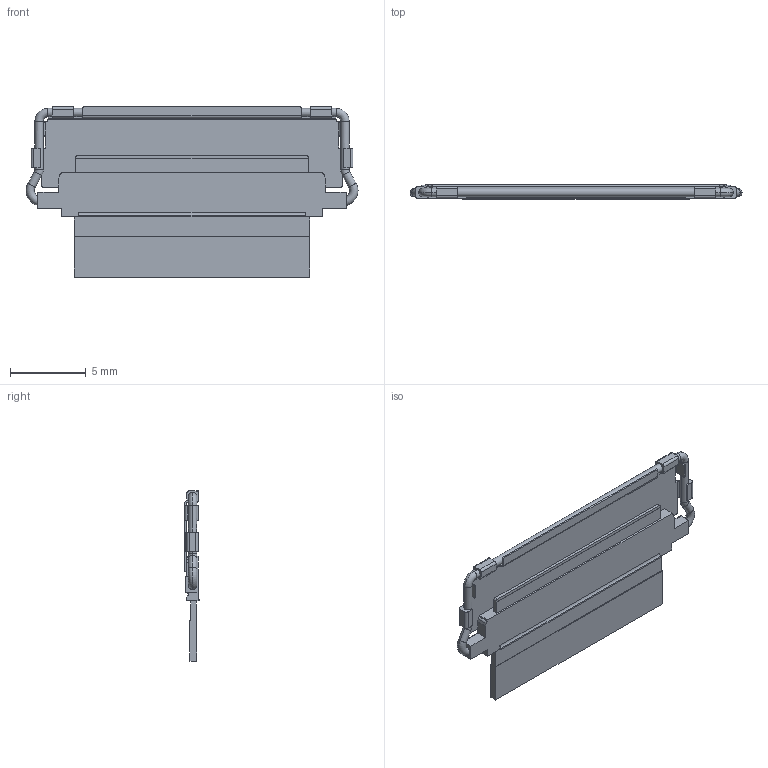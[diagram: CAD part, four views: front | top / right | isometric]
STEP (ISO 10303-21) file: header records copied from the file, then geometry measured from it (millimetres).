
FILE_DESCRIPTION (( 'STEP AP203' ), '1' );
FILE_NAME ('20862-030T-01 FPC ASS''Y STEP R0 ALL.STEP', '2017-11-15T09:47:39', ( '' ), ( '' ), 'SwSTEP 2.0', 'SolidWorks 2014', '' );
FILE_SCHEMA (( 'CONFIG_CONTROL_DESIGN' ));
Length unit declared in the file: millimetre
Products named in the file (1): 20862-030T-01 FPC ASS''Y STEP R0 ALL
Bounding box: 21.85 x 0.95 x 11.2 mm (x, y, z)
Volume: 91.6 mm3; surface area: 605 mm2
Topology: 1 solids, 1 shells, 462 faces, 1364 edges, 898 vertices
Faces by surface type: plane 368, cylinder 78, torus 12, bspline 4
Entity records: 15547 total; most frequent: CARTESIAN_POINT 2995, ORIENTED_EDGE 2728, DIRECTION 2466, EDGE_CURVE 1364, LINE 1148, VECTOR 1148, VERTEX_POINT 898, AXIS2_PLACEMENT_3D 659
